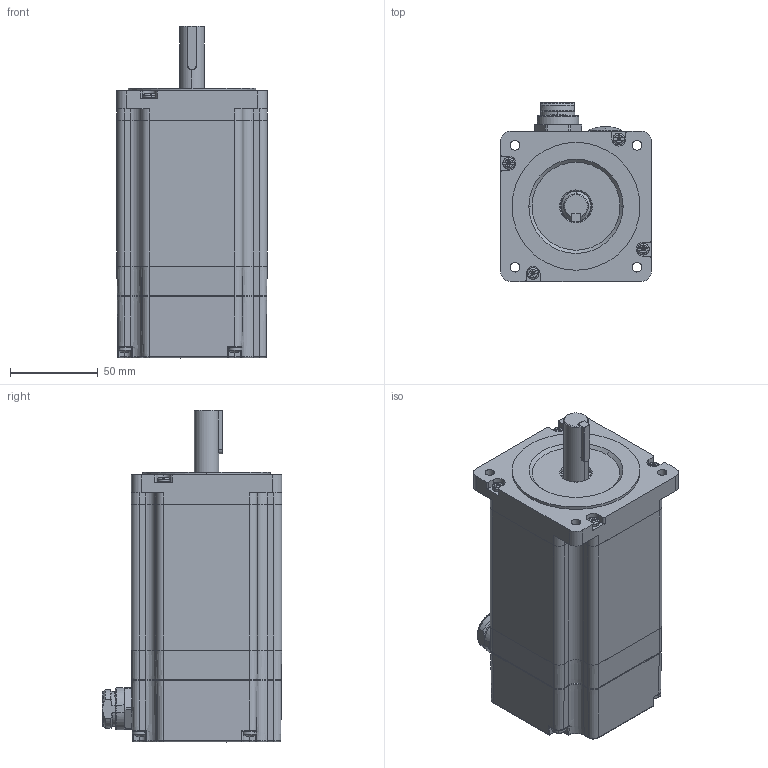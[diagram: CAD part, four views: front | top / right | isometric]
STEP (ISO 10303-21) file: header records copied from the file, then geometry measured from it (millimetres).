
FILE_DESCRIPTION (( 'STEP AP214' ), '1' );
FILE_NAME ('M86SH118-T-C.STEP', '2025-12-20T09:12:46', ( '' ), ( '' ), 'SwSTEP 2.0', 'SolidWorks 2019', '' );
FILE_SCHEMA (( 'AUTOMOTIVE_DESIGN' ));
Length unit declared in the file: millimetre
Products named in the file (1): M86SH118-T-C
Bounding box: 85.9 x 102.59 x 189.55 mm (x, y, z)
Volume: 608865.5 mm3; surface area: 184209.5 mm2
Topology: 28 solids, 28 shells, 1520 faces, 3885 edges, 2499 vertices
Faces by surface type: plane 656, cylinder 408, bspline 179, cone 167, torus 94, sphere 16
Entity records: 71524 total; most frequent: CARTESIAN_POINT 17936, ORIENTED_EDGE 7738, DIRECTION 7401, EDGE_CURVE 3869, AXIS2_PLACEMENT_3D 2742, VERTEX_POINT 2499, VECTOR 1917, LINE 1917
